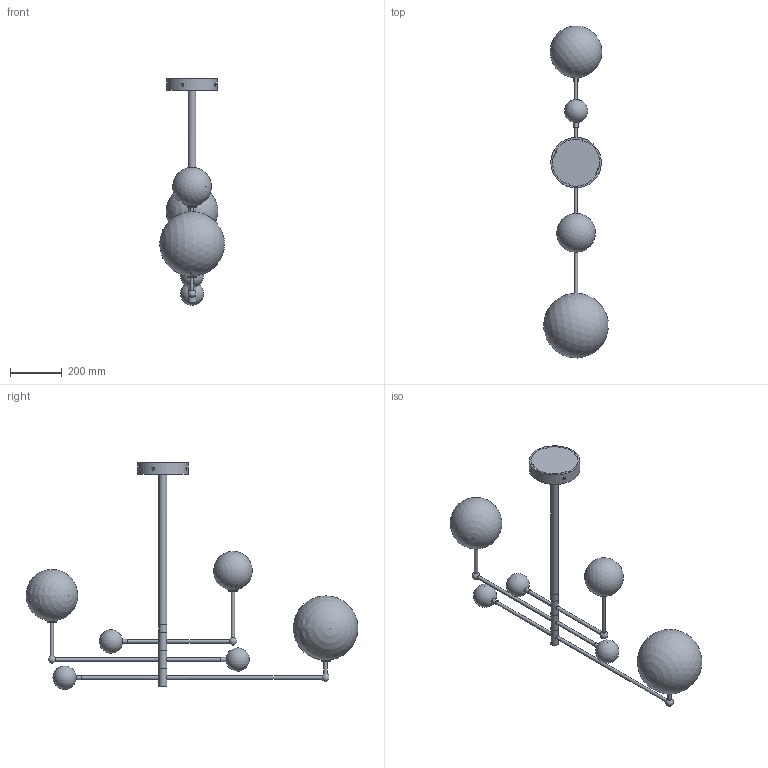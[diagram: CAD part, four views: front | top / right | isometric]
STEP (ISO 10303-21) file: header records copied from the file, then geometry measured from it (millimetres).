
FILE_DESCRIPTION(/* description */ (''),/* implementation_level */ '2;1');
FILE_NAME(/* name */ 'T:\B061 Universe Chandelier\Pliki bryłowe handlowe\B061 Universe 3D files\B061 Universe.stp',/* time_stamp */ '2022-01-18T09:17:08+01:00',/* author */ ('Mariusz Awariusz'),/* organization */ (''),/* preprocessor_version */ 'ST-DEVELOPER v18.1',/* originating_system */ 'Autodesk Inventor 2022',/* authorisation */ '');
FILE_SCHEMA (('AUTOMOTIVE_DESIGN { 1 0 10303 214 3 1 1 }'));
Length unit declared in the file: millimetre
Products named in the file (1): B061 Universe Chandelier CE V3_jako część
Bounding box: 249.44 x 1282.05 x 874.67 mm (x, y, z)
Volume: 4198855.2 mm3; surface area: 1120033.4 mm2
Topology: 1 solids, 8 shells, 313 faces, 645 edges, 388 vertices
Faces by surface type: plane 121, cylinder 109, cone 61, sphere 14, torus 6, bspline 2
Full cylindrical faces by diameter (mm): 2.693 x3, 3 x12, 4 x3, 5.5 x3, 11.6 x9, 11.917 x13, 13 x12, 16 x3, 30 x2, 33 x3, 35 x3, 195 x1
Entity records: 8834 total; most frequent: CARTESIAN_POINT 2101, DIRECTION 1517, ORIENTED_EDGE 1260, AXIS2_PLACEMENT_3D 664, EDGE_CURVE 630, EDGE_LOOP 394, VERTEX_POINT 388, CIRCLE 315
